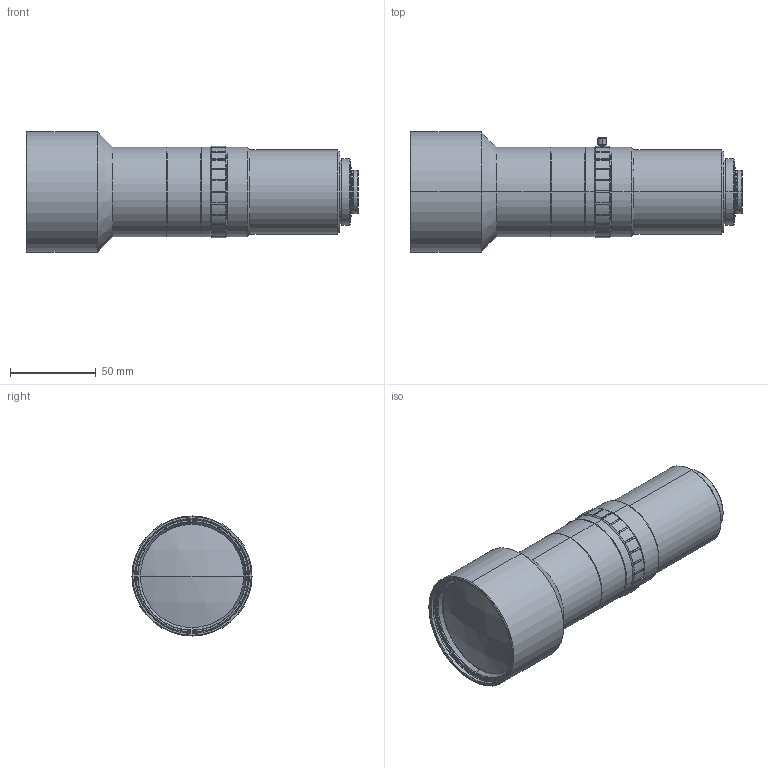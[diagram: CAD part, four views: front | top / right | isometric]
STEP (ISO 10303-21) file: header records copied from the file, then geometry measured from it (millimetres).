
FILE_DESCRIPTION (( 'STEP AP203' ), '1' );
FILE_NAME ('VS-TCM05-130_S.STEP', '2014-08-25T00:42:50', ( 'miura_vst' ), ( '' ), 'SwSTEP 2.0', 'SolidWorks 2014', '' );
FILE_SCHEMA (( 'CONFIG_CONTROL_DESIGN' ));
Length unit declared in the file: millimetre
Products named in the file (1): VS-TCM05-130_S
Bounding box: 193.47 x 70 x 70 mm (x, y, z)
Volume: 447545.7 mm3; surface area: 42772.2 mm2
Topology: 2 solids, 2 shells, 203 faces, 502 edges, 317 vertices
Faces by surface type: plane 89, cylinder 62, cone 50, sphere 2
Entity records: 6253 total; most frequent: CARTESIAN_POINT 1515, ORIENTED_EDGE 1004, DIRECTION 932, EDGE_CURVE 502, AXIS2_PLACEMENT_3D 374, VERTEX_POINT 317, EDGE_LOOP 217, ADVANCED_FACE 203
